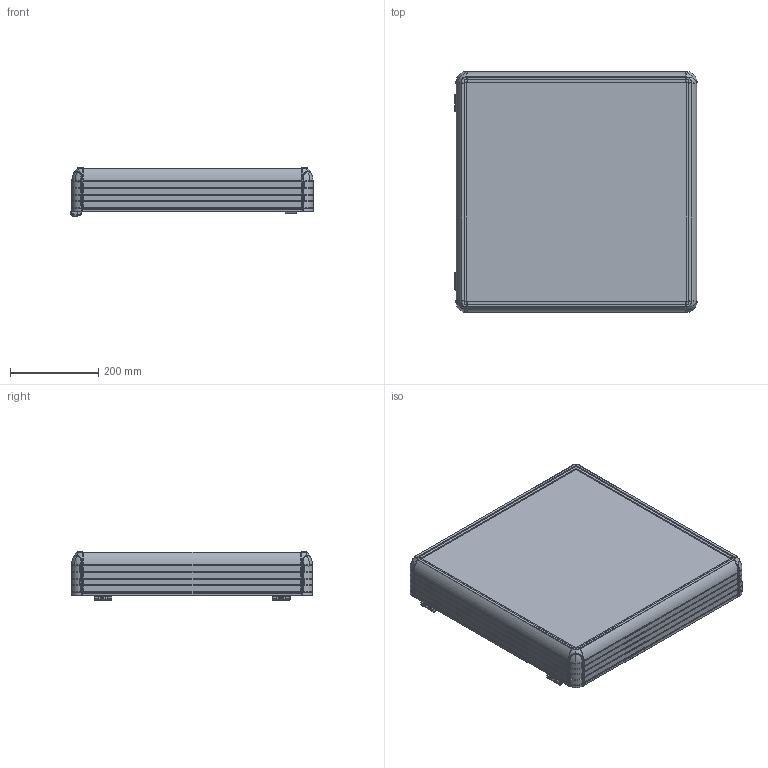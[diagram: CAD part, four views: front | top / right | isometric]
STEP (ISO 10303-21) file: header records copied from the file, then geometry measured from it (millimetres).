
FILE_DESCRIPTION (( 'STEP AP214' ), '1' );
FILE_NAME ('9000-0012.STEP', '2022-09-01T06:10:34', ( '' ), ( '' ), 'SwSTEP 2.0', 'SolidWorks 2022', '' );
FILE_SCHEMA (( 'AUTOMOTIVE_DESIGN' ));
Length unit declared in the file: millimetre
Products named in the file (5): 9000-0012; ECO9000-0000; HPECO-090-001-295_494; ARKA_KAPAK_500X500; 500X500
Assembly tree (10 placements, depth 2):
  9000-0012
    500X500
    ARKA_KAPAK_500X500
    ECO9000-0000  x4
    HPECO-090-001-295_494  x4
Bounding box: 549.03 x 547 x 109.16 mm (x, y, z)
Volume: 4255447.3 mm3; surface area: 1789549.3 mm2
Topology: 18 solids, 68 shells, 5733 faces, 15272 edges, 9418 vertices
Faces by surface type: plane 2365, cylinder 1492, bspline 996, cone 566, torus 268, sphere 46
Entity records: 144217 total; most frequent: CARTESIAN_POINT 34513, ORIENTED_EDGE 17128, DIRECTION 15100, EDGE_CURVE 8564, AXIS2_PLACEMENT_3D 5581, VERTEX_POINT 5302, VECTOR 3938, LINE 3938
